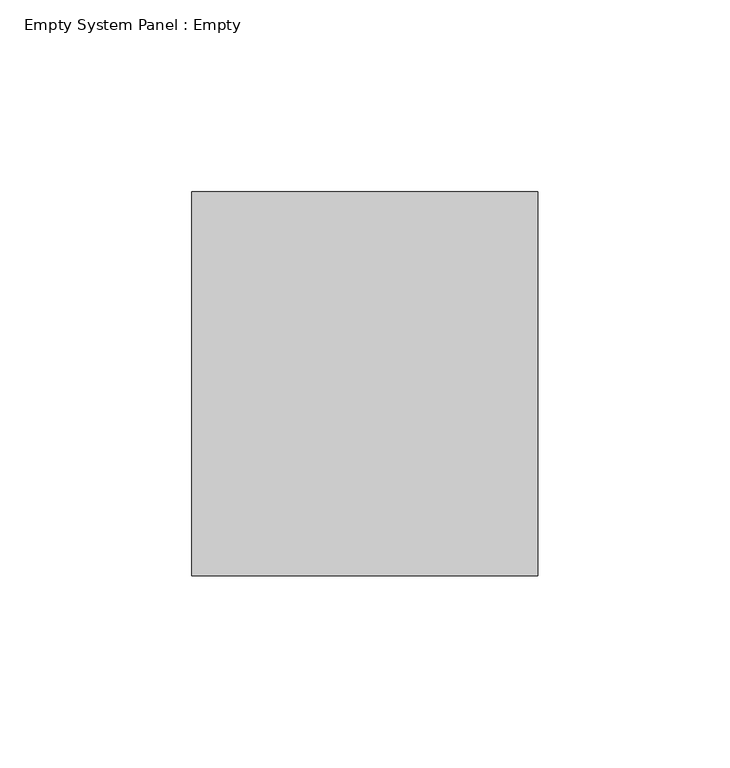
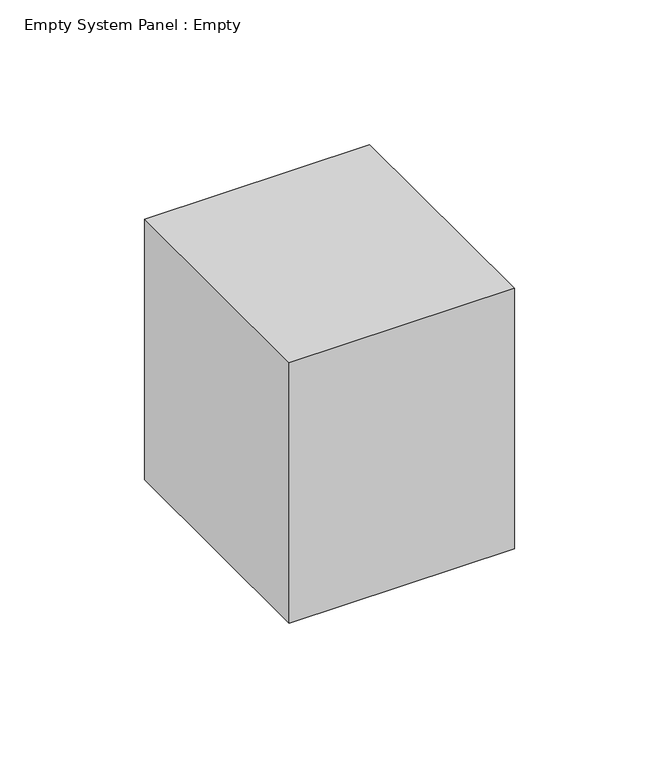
"""IFC4 building model written with IfcOpenShell, lengths in millimetres: plate geometry, Empty System Panel : Empty."""

from ifc_helpers import new_model, si_unit, origin, origin_with_axes, place, context, project, spatial, polyline, outline, extrude, source, transform, mapped, element, save


def empty_system_panel_empty_b6d7d726(model_context):
    return source(origin(), model_context, "Body", "SweptSolid", [
        extrude(outline(polyline([(44.9999998, 50.0), (-44.9999998, 50.0), (-44.9999998, 150.0), (44.9999998, 150.0), (44.9999998, 50.0)])), origin_with_axes(), (0.0, 0.0, 1.0), 110.0),
    ])


if __name__ == "__main__":
    model = new_model("IFC4")
    model_context = context("Model", 3, world=origin())
    ifc_project = project(units=[si_unit("LENGTHUNIT", "METRE", prefix="MILLI")], contexts=[model_context])
    site = spatial("IfcSite", under=ifc_project)
    building = spatial("IfcBuilding", under=site)
    placement = place(None, origin())
    empty_system_panel_empty_shape = empty_system_panel_empty_b6d7d726(model_context)
    element("IfcPlate", 1, ObjectType="Empty System Panel : Empty", at=placement, inside=building, context=model_context, shape_type="MappedRepresentation", body=[
        mapped(empty_system_panel_empty_shape, transform((0.0, 0.0, 0.0), x_axis=(1.0, 0.0, 0.0), y_axis=(0.0, 1.0, 0.0), z_axis=(0.0, 0.0, 1.0))),
    ])
    save(model, "model.ifc")
